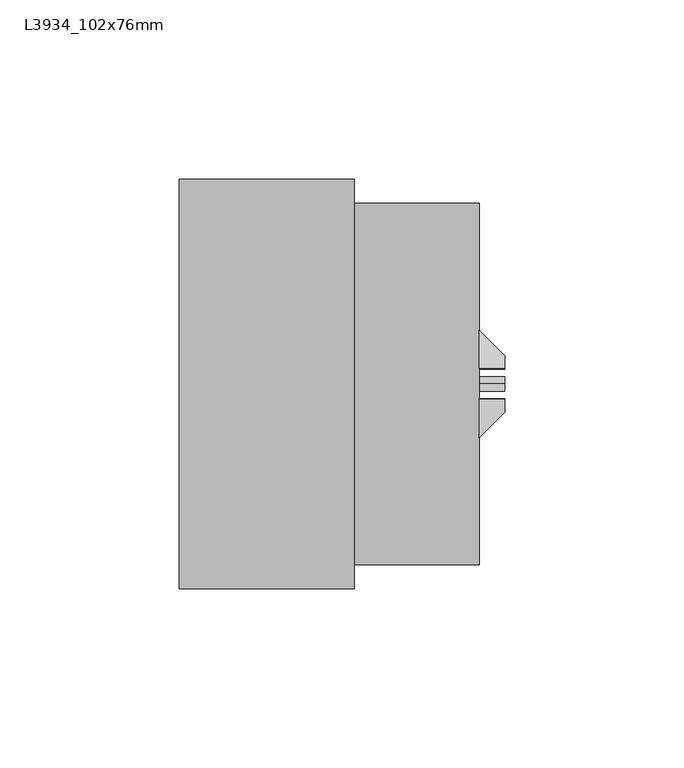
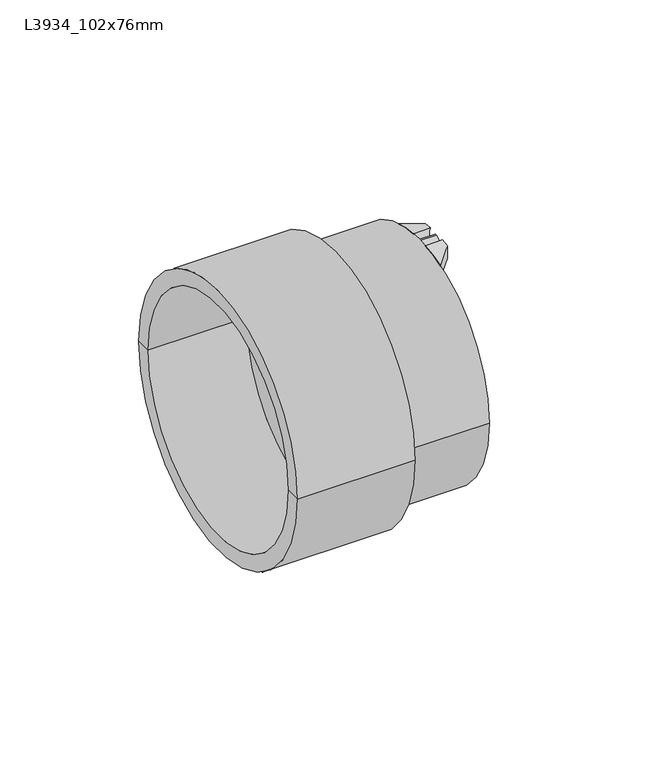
"""IFC4 building model written with IfcOpenShell, lengths in millimetres: pipe fitting geometry, Durapipe_PipeFitting_VulcatheneEnfusion_ReducingCoupler_L39 : L3934_102x76mm."""

from ifc_helpers import new_model, si_unit, point, frame, frame_2d, origin, place, context, project, spatial, polyline, circle_curve, ellipse_curve, trimmed, segment, composite_curve, outline, extrude, source, transform, mapped, element, save
from ifc_brep_helpers import plane_surface, cylinder_surface, revolved_surface, advanced_brep


def l3934_102x76mm_afa478de(model_context):
    return source(origin(), model_context, "Body", "SolidModel", [
        advanced_brep(
        [(48.95, -4.082855, 44.663775), (48.95, -4.3221448, 50.063775), (48.95, -7.94, 49.6187354), (48.95, -7.94, 44.1415779), (41.85, -15.0, 47.9589668), (41.85, -4.3221448, 50.063775), (41.85, -4.082855, 44.663775), (41.85, -15.0, 42.2672746)],
        [
            (0, 1, circle_curve(frame((48.95, 0.0, 47.55), z_axis=(-1.0, 0.0, 0.0), x_axis=(0.0, 0.0, -1.0)), 5.0)),
            (1, 2, circle_curve(frame((48.95, 0.0, 0.0), z_axis=(1.0, 0.0, 0.0), x_axis=(0.0, 0.0, -1.0)), 50.25)),
            (2, 3),
            (3, 0, circle_curve(frame((48.95, 0.0, 0.0), z_axis=(-1.0, 0.0, 0.0), x_axis=(0.0, 0.0, -1.0)), 44.85)),
            (4, 5, circle_curve(frame((41.85, 0.0, 0.0), z_axis=(-1.0, 0.0, 0.0), x_axis=(0.0, 0.0, -1.0)), 50.25)),
            (5, 6, circle_curve(frame((41.85, 0.0, 47.55), z_axis=(1.0, 0.0, 0.0), x_axis=(0.0, 0.0, -1.0)), 5.0)),
            (6, 7, circle_curve(frame((41.85, 0.0, 0.0), z_axis=(1.0, 0.0, 0.0), x_axis=(0.0, 0.0, -1.0)), 44.85)),
            (7, 4),
            (6, 0),
            (3, 7, ellipse_curve(frame((56.9349858, 0.0, 0.0), z_axis=(0.7051064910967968, -0.7091014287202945, 0.0), x_axis=(-0.7091014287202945, -0.7051064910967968, 0.0)), 63.6074133, 44.85)),
            (4, 2, ellipse_curve(frame((56.9349858, 0.0, 0.0), z_axis=(-0.7051064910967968, 0.7091014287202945, 0.0), x_axis=(0.7091014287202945, 0.7051064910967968, 0.0)), 71.265831, 50.25)),
            (1, 5),
        ],
        [
            plane_surface(frame((48.95, -15.0, 47.9589668), z_axis=(1.0, 0.0, 0.0), x_axis=(0.0, 0.0, -1.0))),
            plane_surface(frame((41.85, -15.0, 47.9589668), z_axis=(-1.0, 0.0, 0.0), x_axis=(0.0, 0.0, 1.0))),
            revolved_surface(polyline([(11.830878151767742, 0.0, -44.85), (102.03909344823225, 0.0, -44.85)]), (41.85, 0.0, 0.0), (-1.0, 0.0, 0.0)),
            cylinder_surface(frame((41.85, 0.0, 0.0), z_axis=(1.0, 0.0, 0.0), x_axis=(0.0, 0.0, -1.0)), 50.25),
            revolved_surface(polyline([(48.95, 0.0, 42.55), (41.85, 0.0, 42.55)]), (41.85, 0.0, 47.55), (1.0, 0.0, 0.0)),
            plane_surface(frame((41.85, -15.0, -50.25), z_axis=(0.7051064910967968, -0.7091014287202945, 0.0), x_axis=(0.0, 0.0, 1.0))),
        ],
        [
            (0, [[1, 2, 3, 4]]),
            (1, [[5, 6, 7, 8]]),
            (2, [[-7, 9, -4, 10]]),
            (3, [[-5, 11, -2, 12]]),
            (4, [[-1, -9, -6, -12]]),
            (5, [[-3, -11, -8, -10]]),
        ],
    ),
        advanced_brep(
        [(48.95, 4.3221448, 50.063775), (48.95, 4.082855, 44.663775), (48.95, 7.94, 44.1415779), (48.95, 7.94, 49.6187354), (41.85, 4.3221448, 50.063775), (41.85, 15.0, 47.9589668), (41.85, 15.0, 42.2672746), (41.85, 4.082855, 44.663775)],
        [
            (0, 1, circle_curve(frame((48.95, 0.0, 47.55), z_axis=(-1.0, 0.0, 0.0), x_axis=(0.0, 0.0, -1.0)), 5.0)),
            (1, 2, circle_curve(frame((48.95, 0.0, 0.0), z_axis=(-1.0, 0.0, 0.0), x_axis=(0.0, 0.0, -1.0)), 44.85)),
            (2, 3),
            (3, 0, circle_curve(frame((48.95, 0.0, 0.0), z_axis=(1.0, 0.0, 0.0), x_axis=(0.0, 0.0, -1.0)), 50.25)),
            (4, 5, circle_curve(frame((41.85, 0.0, 0.0), z_axis=(-1.0, 0.0, 0.0), x_axis=(0.0, 0.0, -1.0)), 50.25)),
            (5, 6),
            (6, 7, circle_curve(frame((41.85, 0.0, 0.0), z_axis=(1.0, 0.0, 0.0), x_axis=(0.0, 0.0, -1.0)), 44.85)),
            (7, 4, circle_curve(frame((41.85, 0.0, 47.55), z_axis=(1.0, 0.0, 0.0), x_axis=(0.0, 0.0, -1.0)), 5.0)),
            (6, 2, ellipse_curve(frame((56.9349858, 0.0, 0.0), z_axis=(0.7051064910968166, 0.7091014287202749, 0.0), x_axis=(-0.7091014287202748, 0.7051064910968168, 0.0)), 63.6074133, 44.85)),
            (1, 7),
            (4, 0),
            (3, 5, ellipse_curve(frame((56.9349858, 0.0, 0.0), z_axis=(-0.7051064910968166, -0.7091014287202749, 0.0), x_axis=(0.7091014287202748, -0.7051064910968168, 0.0)), 71.265831, 50.25)),
        ],
        [
            plane_surface(frame((48.95, -15.0, 47.9589668), z_axis=(1.0, 0.0, 0.0), x_axis=(0.0, 0.0, -1.0))),
            plane_surface(frame((41.85, -15.0, 47.9589668), z_axis=(-1.0, 0.0, 0.0), x_axis=(0.0, 0.0, 1.0))),
            revolved_surface(polyline([(11.830878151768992, 0.0, -44.85), (102.039093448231, 0.0, -44.85)]), (41.85, 0.0, 0.0), (-1.0, 0.0, 0.0)),
            cylinder_surface(frame((41.85, 0.0, 0.0), z_axis=(1.0, 0.0, 0.0), x_axis=(0.0, 0.0, -1.0)), 50.25),
            revolved_surface(polyline([(48.95, 0.0, 42.55), (41.85, 0.0, 42.55)]), (41.85, 0.0, 47.55), (1.0, 0.0, 0.0)),
            plane_surface(frame((48.95, 7.94, -50.25), z_axis=(0.7051064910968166, 0.7091014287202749, 0.0), x_axis=(0.0, 0.0, 1.0))),
        ],
        [
            (0, [[1, 2, 3, 4]]),
            (1, [[5, 6, 7, 8]]),
            (2, [[-7, 9, -2, 10]]),
            (3, [[-5, 11, -4, 12]]),
            (4, [[-1, -11, -8, -10]]),
            (5, [[-3, -9, -6, -12]]),
        ],
    ),
        advanced_brep(
        [(48.95, -4.3221448, -50.063775), (48.95, -4.082855, -44.663775), (48.95, -7.94, -44.1415779), (48.95, -7.94, -49.6187354), (41.85, -4.3221448, -50.063775), (41.85, -15.0, -47.9589668), (41.85, -15.0, -42.2672746), (41.85, -4.082855, -44.663775)],
        [
            (0, 1, circle_curve(frame((48.95, 0.0, -47.55), z_axis=(-1.0, 0.0, 0.0), x_axis=(0.0, 0.0, -1.0)), 5.0)),
            (1, 2, circle_curve(frame((48.95, 0.0, 0.0), z_axis=(-1.0, 0.0, 0.0), x_axis=(0.0, 0.0, -1.0)), 44.85)),
            (2, 3),
            (3, 0, circle_curve(frame((48.95, 0.0, 0.0), z_axis=(1.0, 0.0, 0.0), x_axis=(0.0, 0.0, -1.0)), 50.25)),
            (4, 5, circle_curve(frame((41.85, 0.0, 0.0), z_axis=(-1.0, 0.0, 0.0), x_axis=(0.0, 0.0, -1.0)), 50.25)),
            (5, 6),
            (6, 7, circle_curve(frame((41.85, 0.0, 0.0), z_axis=(1.0, 0.0, 0.0), x_axis=(0.0, 0.0, -1.0)), 44.85)),
            (7, 4, circle_curve(frame((41.85, 0.0, -47.55), z_axis=(1.0, 0.0, 0.0), x_axis=(0.0, 0.0, -1.0)), 5.0)),
            (6, 2, ellipse_curve(frame((56.9349858, 0.0, 0.0), z_axis=(0.7051064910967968, -0.7091014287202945, 0.0), x_axis=(-0.7091014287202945, -0.7051064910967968, 0.0)), 63.6074133, 44.85)),
            (1, 7),
            (4, 0),
            (3, 5, ellipse_curve(frame((56.9349858, 0.0, 0.0), z_axis=(-0.7051064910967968, 0.7091014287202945, 0.0), x_axis=(0.7091014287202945, 0.7051064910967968, 0.0)), 71.265831, 50.25)),
        ],
        [
            plane_surface(frame((48.95, -15.0, 47.9589668), z_axis=(1.0, 0.0, 0.0), x_axis=(0.0, 0.0, -1.0))),
            plane_surface(frame((41.85, -15.0, 47.9589668), z_axis=(-1.0, 0.0, 0.0), x_axis=(0.0, 0.0, 1.0))),
            revolved_surface(polyline([(11.830878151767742, 0.0, -44.85), (102.03909344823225, 0.0, -44.85)]), (41.85, 0.0, 0.0), (-1.0, 0.0, 0.0)),
            cylinder_surface(frame((41.85, 0.0, 0.0), z_axis=(1.0, 0.0, 0.0), x_axis=(0.0, 0.0, -1.0)), 50.25),
            revolved_surface(polyline([(48.95, 0.0, -52.55), (41.85, 0.0, -52.55)]), (41.85, 0.0, -47.55), (1.0, 0.0, 0.0)),
            plane_surface(frame((41.85, -15.0, -50.25), z_axis=(0.7051064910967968, -0.7091014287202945, 0.0), x_axis=(0.0, 0.0, 1.0))),
        ],
        [
            (0, [[1, 2, 3, 4]]),
            (1, [[5, 6, 7, 8]]),
            (2, [[-7, 9, -2, 10]]),
            (3, [[-5, 11, -4, 12]]),
            (4, [[-1, -11, -8, -10]]),
            (5, [[-3, -9, -6, -12]]),
        ],
    ),
        advanced_brep(
        [(48.95, 4.082855, -44.663775), (48.95, 4.3221448, -50.063775), (48.95, 7.94, -49.6187354), (48.95, 7.94, -44.1415779), (41.85, 15.0, -47.9589668), (41.85, 4.3221448, -50.063775), (41.85, 4.082855, -44.663775), (41.85, 15.0, -42.2672746)],
        [
            (0, 1, circle_curve(frame((48.95, 0.0, -47.55), z_axis=(-1.0, 0.0, 0.0), x_axis=(0.0, 0.0, -1.0)), 5.0)),
            (1, 2, circle_curve(frame((48.95, 0.0, 0.0), z_axis=(1.0, 0.0, 0.0), x_axis=(0.0, 0.0, -1.0)), 50.25)),
            (2, 3),
            (3, 0, circle_curve(frame((48.95, 0.0, 0.0), z_axis=(-1.0, 0.0, 0.0), x_axis=(0.0, 0.0, -1.0)), 44.85)),
            (4, 5, circle_curve(frame((41.85, 0.0, 0.0), z_axis=(-1.0, 0.0, 0.0), x_axis=(0.0, 0.0, -1.0)), 50.25)),
            (5, 6, circle_curve(frame((41.85, 0.0, -47.55), z_axis=(1.0, 0.0, 0.0), x_axis=(0.0, 0.0, -1.0)), 5.0)),
            (6, 7, circle_curve(frame((41.85, 0.0, 0.0), z_axis=(1.0, 0.0, 0.0), x_axis=(0.0, 0.0, -1.0)), 44.85)),
            (7, 4),
            (6, 0),
            (3, 7, ellipse_curve(frame((56.9349858, 0.0, 0.0), z_axis=(0.7051064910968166, 0.7091014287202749, 0.0), x_axis=(-0.7091014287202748, 0.7051064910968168, 0.0)), 63.6074133, 44.85)),
            (4, 2, ellipse_curve(frame((56.9349858, 0.0, 0.0), z_axis=(-0.7051064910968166, -0.7091014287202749, 0.0), x_axis=(0.7091014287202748, -0.7051064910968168, 0.0)), 71.265831, 50.25)),
            (1, 5),
        ],
        [
            plane_surface(frame((48.95, -15.0, 47.9589668), z_axis=(1.0, 0.0, 0.0), x_axis=(0.0, 0.0, -1.0))),
            plane_surface(frame((41.85, -15.0, 47.9589668), z_axis=(-1.0, 0.0, 0.0), x_axis=(0.0, 0.0, 1.0))),
            revolved_surface(polyline([(11.830878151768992, 0.0, -44.85), (102.039093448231, 0.0, -44.85)]), (41.85, 0.0, 0.0), (-1.0, 0.0, 0.0)),
            cylinder_surface(frame((41.85, 0.0, 0.0), z_axis=(1.0, 0.0, 0.0), x_axis=(0.0, 0.0, -1.0)), 50.25),
            revolved_surface(polyline([(48.95, 0.0, -52.55), (41.85, 0.0, -52.55)]), (41.85, 0.0, -47.55), (1.0, 0.0, 0.0)),
            plane_surface(frame((48.95, 7.94, -50.25), z_axis=(0.7051064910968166, 0.7091014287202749, 0.0), x_axis=(0.0, 0.0, 1.0))),
        ],
        [
            (0, [[1, 2, 3, 4]]),
            (1, [[5, 6, 7, 8]]),
            (2, [[-7, 9, -4, 10]]),
            (3, [[-5, 11, -2, 12]]),
            (4, [[-1, -9, -6, -12]]),
            (5, [[-3, -11, -8, -10]]),
        ],
    ),
        extrude(outline(composite_curve([segment(trimmed(circle_curve(frame_2d((0.0, 47.55)), 2.0), [point((0.0, 49.55))], [point((0.0, 45.55))], False, "CARTESIAN"), True, "CONTINUOUS"), segment(trimmed(circle_curve(frame_2d((0.0, 47.55)), 2.0), [point((0.0, 45.55))], [point((0.0, 49.55))], False, "CARTESIAN"), True, "CONTINUOUS")], self_intersect=False)), frame((41.85, 0.0, 0.0), z_axis=(1.0, 0.0, 0.0), x_axis=(0.0, 1.0, 0.0)), (0.0, 0.0, 1.0), 7.1),
        extrude(outline(composite_curve([segment(trimmed(circle_curve(frame_2d((0.0, -47.55)), 2.0), [point((0.0, -45.55))], [point((0.0, -49.55))], False, "CARTESIAN"), True, "CONTINUOUS"), segment(trimmed(circle_curve(frame_2d((0.0, -47.55)), 2.0), [point((0.0, -49.55))], [point((0.0, -45.55))], False, "CARTESIAN"), True, "CONTINUOUS")], self_intersect=False)), frame((41.85, 0.0, 0.0), z_axis=(1.0, 0.0, 0.0), x_axis=(0.0, 1.0, 0.0)), (0.0, 0.0, 1.0), 7.1),
        advanced_brep(
        [(6.95, -57.15, 0.0), (6.95, 57.15, 0.0), (6.95, 50.4, 0.0), (6.95, -50.4, 0.0), (-41.85, -57.15, 0.0), (-41.85, 57.15, 0.0), (-41.85, -50.65, 0.0), (-41.85, 50.65, 0.0), (-0.95, -50.65, 0.0), (-0.95, 50.65, 0.0), (41.85, -44.7, 0.0), (41.85, 44.7, 0.0), (6.95, 44.7, 0.0), (6.95, -44.7, 0.0), (41.85, -50.4, 0.0), (41.85, 50.4, 0.0), (-0.95, -38.1, 0.0), (-0.95, 38.1, 0.0), (6.95, -38.1, 0.0), (6.95, 38.1, 0.0)],
        [
            (0, 1, circle_curve(frame((6.95, 0.0, 0.0), z_axis=(1.0, 0.0, 0.0), x_axis=(0.0, 1.0, 0.0)), 57.15)),
            (1, 2),
            (2, 3, circle_curve(frame((6.95, 0.0, 0.0), z_axis=(-1.0, 0.0, 0.0), x_axis=(0.0, 1.0, 0.0)), 50.4)),
            (3, 0),
            (1, 0, circle_curve(frame((6.95, 0.0, 0.0), z_axis=(1.0, 0.0, 0.0), x_axis=(0.0, 1.0, 0.0)), 57.15)),
            (3, 2, circle_curve(frame((6.95, 0.0, 0.0), z_axis=(-1.0, 0.0, 0.0), x_axis=(0.0, 1.0, 0.0)), 50.4)),
            (4, 5, circle_curve(frame((-41.85, 0.0, 0.0), z_axis=(1.0, 0.0, 0.0), x_axis=(0.0, 1.0, 0.0)), 57.15)),
            (5, 1),
            (0, 4),
            (5, 4, circle_curve(frame((-41.85, 0.0, 0.0), z_axis=(1.0, 0.0, 0.0), x_axis=(0.0, 1.0, 0.0)), 57.15)),
            (6, 7, circle_curve(frame((-41.85, 0.0, 0.0), z_axis=(1.0, 0.0, 0.0), x_axis=(0.0, 1.0, 0.0)), 50.65)),
            (7, 5),
            (4, 6),
            (7, 6, circle_curve(frame((-41.85, 0.0, 0.0), z_axis=(1.0, 0.0, 0.0), x_axis=(0.0, 1.0, 0.0)), 50.65)),
            (8, 9, circle_curve(frame((-0.95, 0.0, 0.0), z_axis=(1.0, 0.0, 0.0), x_axis=(0.0, 1.0, 0.0)), 50.65)),
            (9, 7),
            (6, 8),
            (9, 8, circle_curve(frame((-0.95, 0.0, 0.0), z_axis=(1.0, 0.0, 0.0), x_axis=(0.0, 1.0, 0.0)), 50.65)),
            (10, 11, circle_curve(frame((41.85, 0.0, 0.0), z_axis=(1.0, 0.0, 0.0), x_axis=(0.0, 1.0, 0.0)), 44.7)),
            (11, 12),
            (12, 13, circle_curve(frame((6.95, 0.0, 0.0), z_axis=(-1.0, 0.0, 0.0), x_axis=(0.0, 1.0, 0.0)), 44.7)),
            (13, 10),
            (11, 10, circle_curve(frame((41.85, 0.0, 0.0), z_axis=(1.0, 0.0, 0.0), x_axis=(0.0, 1.0, 0.0)), 44.7)),
            (13, 12, circle_curve(frame((6.95, 0.0, 0.0), z_axis=(-1.0, 0.0, 0.0), x_axis=(0.0, 1.0, 0.0)), 44.7)),
            (14, 15, circle_curve(frame((41.85, 0.0, 0.0), z_axis=(1.0, 0.0, 0.0), x_axis=(0.0, 1.0, 0.0)), 50.4)),
            (15, 11),
            (10, 14),
            (15, 14, circle_curve(frame((41.85, 0.0, 0.0), z_axis=(1.0, 0.0, 0.0), x_axis=(0.0, 1.0, 0.0)), 50.4)),
            (2, 15),
            (14, 3),
            (16, 17, circle_curve(frame((-0.95, 0.0, 0.0), z_axis=(1.0, 0.0, 0.0), x_axis=(0.0, 1.0, 0.0)), 38.1)),
            (17, 9),
            (8, 16),
            (17, 16, circle_curve(frame((-0.95, 0.0, 0.0), z_axis=(1.0, 0.0, 0.0), x_axis=(0.0, 1.0, 0.0)), 38.1)),
            (18, 19, circle_curve(frame((6.95, 0.0, 0.0), z_axis=(1.0, 0.0, 0.0), x_axis=(0.0, 1.0, 0.0)), 38.1)),
            (19, 17),
            (16, 18),
            (19, 18, circle_curve(frame((6.95, 0.0, 0.0), z_axis=(1.0, 0.0, 0.0), x_axis=(0.0, 1.0, 0.0)), 38.1)),
            (12, 19),
            (18, 13),
        ],
        [
            plane_surface(frame((6.95, 0.0, 0.0), z_axis=(1.0, 0.0, 0.0), x_axis=(0.0, 1.0, 0.0))),
            cylinder_surface(frame((1571.3518184, 0.0, 0.0), z_axis=(-1.0, 0.0, 0.0), x_axis=(0.0, 1.0, 0.0)), 57.15),
            plane_surface(frame((-41.85, 0.0, 0.0), z_axis=(-1.0, 0.0, 0.0), x_axis=(0.0, 1.0, 0.0))),
            revolved_surface(polyline([(-41.84999999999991, 50.65, 0.0), (-0.9500000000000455, 50.65, 0.0)]), (1571.3518184, 0.0, 0.0), (-1.0, 0.0, 0.0)),
            revolved_surface(polyline([(6.9500000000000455, 44.7, 0.0), (41.84999999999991, 44.7, 0.0)]), (1571.3518184, 0.0, 0.0), (-1.0, 0.0, 0.0)),
            plane_surface(frame((41.85, 0.0, 0.0), z_axis=(1.0, 0.0, 0.0), x_axis=(0.0, 1.0, 0.0))),
            cylinder_surface(frame((1571.3518184, 0.0, 0.0), z_axis=(-1.0, 0.0, 0.0), x_axis=(0.0, 1.0, 0.0)), 50.4),
            plane_surface(frame((-0.95, 0.0, 0.0), z_axis=(-1.0, 0.0, 0.0), x_axis=(0.0, 1.0, 0.0))),
            revolved_surface(polyline([(-0.9500000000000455, 38.1, 0.0), (6.9500000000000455, 38.1, 0.0)]), (1571.3518184, 0.0, 0.0), (-1.0, 0.0, 0.0)),
        ],
        [
            (0, [[1, 2, 3, 4]]),
            (0, [[5, -4, 6, -2]]),
            (1, [[7, 8, -1, 9]]),
            (1, [[10, -9, -5, -8]]),
            (2, [[11, 12, -7, 13]]),
            (2, [[14, -13, -10, -12]]),
            (3, [[15, 16, -11, 17]]),
            (3, [[18, -17, -14, -16]]),
            (4, [[19, 20, 21, 22]]),
            (4, [[23, -22, 24, -20]]),
            (5, [[25, 26, -19, 27]]),
            (5, [[28, -27, -23, -26]]),
            (6, [[-3, 29, -25, 30]]),
            (6, [[-6, -30, -28, -29]]),
            (7, [[31, 32, -15, 33]]),
            (7, [[34, -33, -18, -32]]),
            (8, [[35, 36, -31, 37]]),
            (8, [[38, -37, -34, -36]]),
            (0, [[-21, 39, -35, 40]]),
            (0, [[-24, -40, -38, -39]]),
        ],
    ),
    ])


if __name__ == "__main__":
    model = new_model("IFC4")
    model_context = context("Model", 3, world=origin())
    ifc_project = project(units=[si_unit("LENGTHUNIT", "METRE", prefix="MILLI")], contexts=[model_context])
    site = spatial("IfcSite", under=ifc_project)
    building = spatial("IfcBuilding", under=site)
    placement = place(None, origin())
    l3934_102x76mm_shape = l3934_102x76mm_afa478de(model_context)
    element("IfcPipeFitting", 1, ObjectType="Durapipe_PipeFitting_VulcatheneEnfusion_ReducingCoupler_L39 : L3934_102x76mm", at=placement, inside=building, context=model_context, shape_type="MappedRepresentation", body=[
        mapped(l3934_102x76mm_shape, transform((0.0, 0.0, 0.0), x_axis=(1.0, 0.0, 0.0), y_axis=(0.0, 1.0, 0.0), z_axis=(0.0, 0.0, 1.0))),
    ])
    save(model, "model.ifc")
